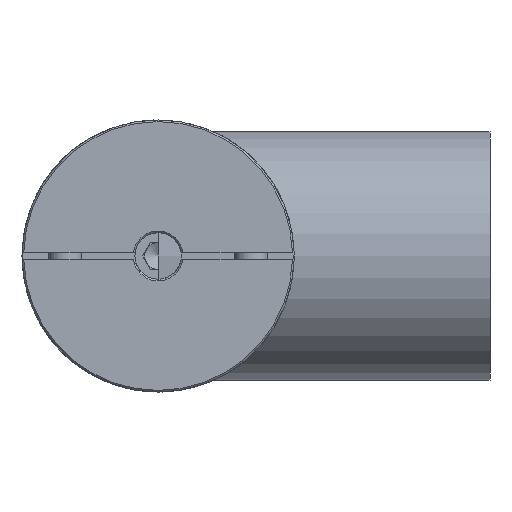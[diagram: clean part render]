
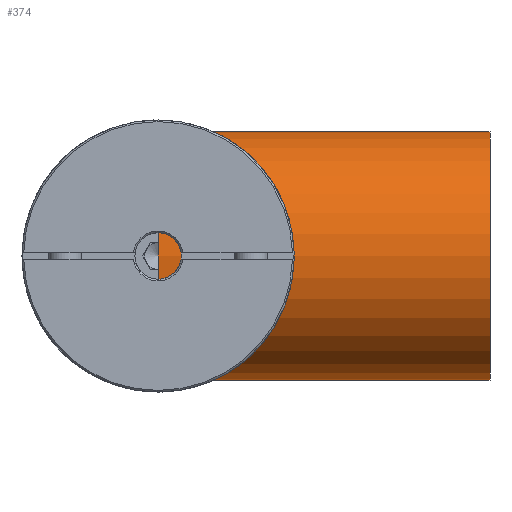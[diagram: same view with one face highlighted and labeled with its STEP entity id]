
A CAD part, left-side view. The second image highlights one B-rep face of the part: STEP entity #374.
In plain terms, the highlighted cylindrical face has radius 37.5 mm (diameter 75 mm), a full revolution.
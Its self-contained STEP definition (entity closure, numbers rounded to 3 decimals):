
#374 = ADVANCED_FACE( '', ( #653, #654 ), #655, .T. );
#653 = FACE_OUTER_BOUND( '', #909, .T. );
#654 = FACE_OUTER_BOUND( '', #910, .T. );
#655 = CYLINDRICAL_SURFACE( '', #911, 37.5 );
#909 = EDGE_LOOP( '', ( #1442 ) );
#910 = EDGE_LOOP( '', ( #1443 ) );
#911 = AXIS2_PLACEMENT_3D( '', #1444, #1445, #1446 );
#1442 = ORIENTED_EDGE( '', *, *, #1605, .T. );
#1443 = ORIENTED_EDGE( '', *, *, #1606, .F. );
#1444 = CARTESIAN_POINT( '', ( 0., -100., 0. ) );
#1445 = DIRECTION( '', ( 0., -1., 0. ) );
#1446 = DIRECTION( '', ( 0., 0., 1. ) );
#1605 = EDGE_CURVE( '', #1856, #1856, #1857, .T. );
#1606 = EDGE_CURVE( '', #1858, #1858, #1859, .T. );
#1856 = VERTEX_POINT( '', #2478 );
#1857 = CIRCLE( '', #2479, 37.5 );
#1858 = VERTEX_POINT( '', #2480 );
#1859 = CIRCLE( '', #2481, 37.5 );
#2478 = CARTESIAN_POINT( '', ( 37.5, -100., 0. ) );
#2479 = AXIS2_PLACEMENT_3D( '', #2744, #2745, #2746 );
#2480 = CARTESIAN_POINT( '', ( 37.5, 0., 0. ) );
#2481 = AXIS2_PLACEMENT_3D( '', #2747, #2748, #2749 );
#2744 = CARTESIAN_POINT( '', ( 0., -100., 0. ) );
#2745 = DIRECTION( '', ( 0., 1., 0. ) );
#2746 = DIRECTION( '', ( 1., 0., 0. ) );
#2747 = CARTESIAN_POINT( '', ( 0., 0., 0. ) );
#2748 = DIRECTION( '', ( 0., 1., 0. ) );
#2749 = DIRECTION( '', ( 1., 0., 0. ) );
